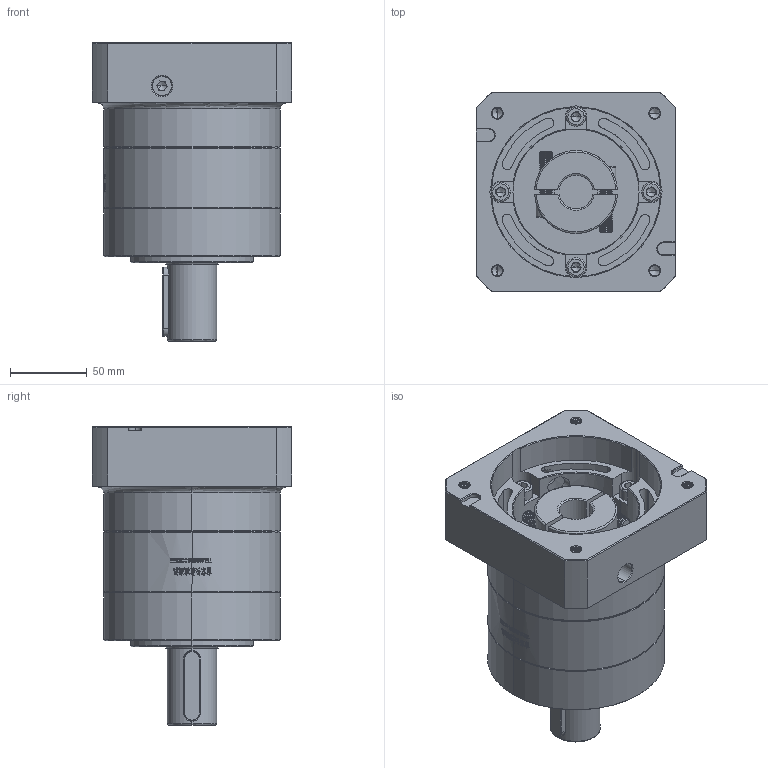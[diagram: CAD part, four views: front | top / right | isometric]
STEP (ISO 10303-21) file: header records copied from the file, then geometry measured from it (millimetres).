
FILE_DESCRIPTION (( 'STEP AP214' ), '1' );
FILE_NAME ('ZE120A-D32-L1-22-110-145-M8.step', '2023-03-09T06:27:11', ( '' ), ( '' ), 'SwSTEP 2.0', 'SolidWorks 2016', '' );
FILE_SCHEMA (( 'AUTOMOTIVE_DESIGN' ));
Length unit declared in the file: millimetre
Products named in the file (1): ZE120A-D32-L1-22-110-145-M8
Bounding box: 130 x 130 x 194 mm (x, y, z)
Volume: 1411905.8 mm3; surface area: 177903.4 mm2
Topology: 6 solids, 6 shells, 2085 faces, 5531 edges, 3537 vertices
Faces by surface type: plane 862, cylinder 547, bspline 335, cone 323, torus 18
Entity records: 122064 total; most frequent: CARTESIAN_POINT 51995, ORIENTED_EDGE 10986, DIRECTION 8303, EDGE_CURVE 5493, VERTEX_POINT 3537, VECTOR 2877, LINE 2877, AXIS2_PLACEMENT_3D 2713
